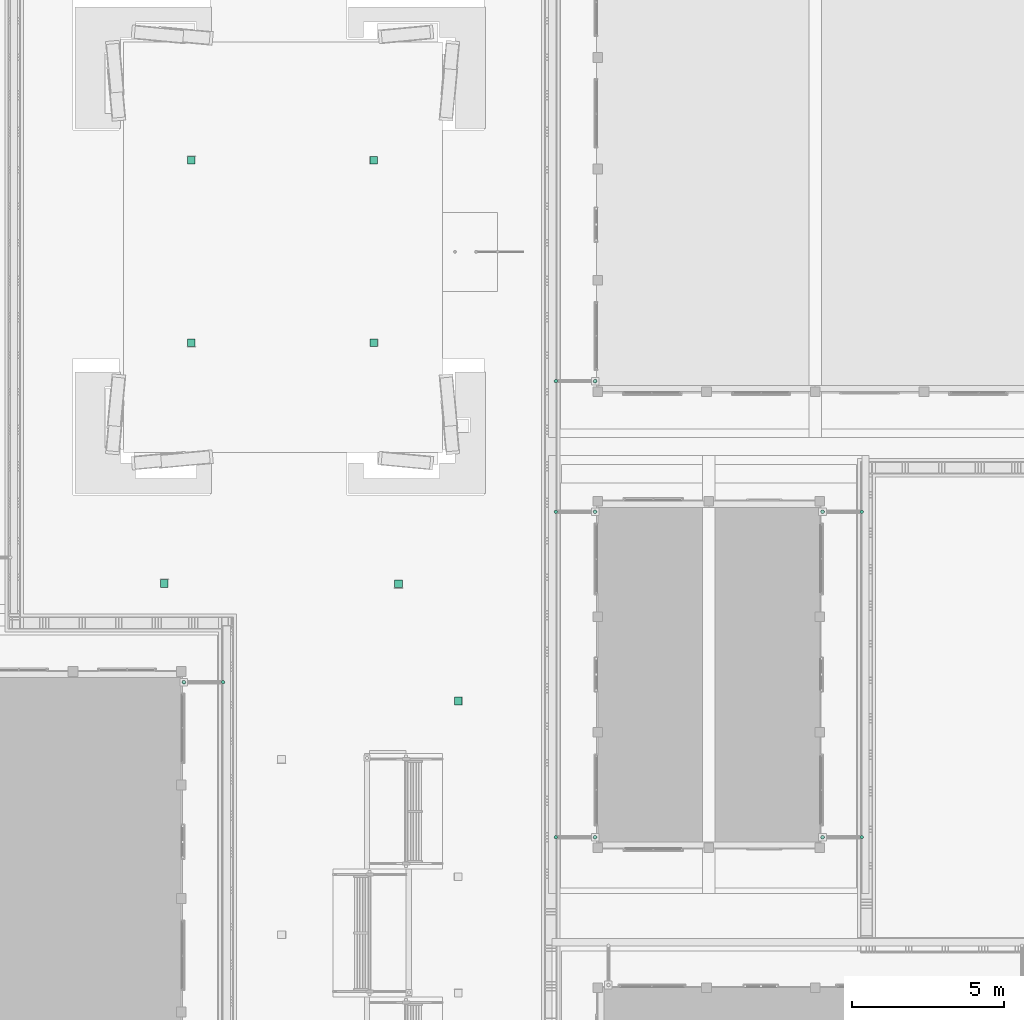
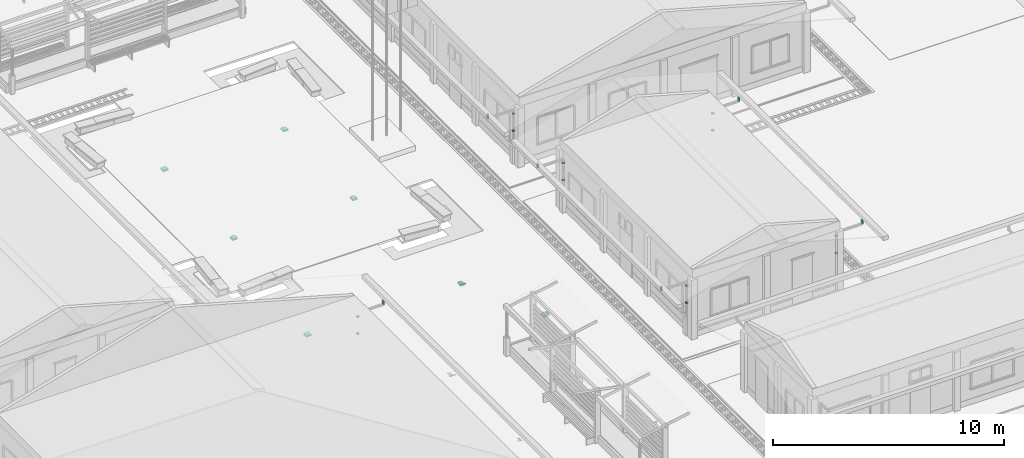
# One storey, part 114 of 151: 18 flow segments, 7 flow terminals.
"""IFC2X3 building model written with IfcOpenShell, lengths in metres."""

from ifc_helpers import new_model, si_unit, origin, origin_with_axes, place, context, subcontext, project, spatial, faceted_brep, element, save


model = new_model("IFC2X3")

# Units and contexts
model_context = context("Model", 3, precision=1e-05, world=origin_with_axes())
body_context = subcontext(model_context, "Body", "Model", "MODEL_VIEW")
ifc_project = project(units=[si_unit("LENGTHUNIT", "METRE"), si_unit("AREAUNIT", "SQUARE_METRE"), si_unit("VOLUMEUNIT", "CUBIC_METRE"), si_unit("PLANEANGLEUNIT", "RADIAN")], contexts=[model_context])

# Site, building, storey
site_placement = place(None, origin_with_axes())
site = spatial("IfcSite", under=ifc_project, at=site_placement, Name="Predio Los Mangos - Morales, San Martín", CompositionType="ELEMENT")
building_placement = place(site_placement, origin())
building = spatial("IfcBuilding", under=site, at=building_placement, Name="Hogar de Refugio Temporal", CompositionType="ELEMENT")
storey_placement = place(building_placement, origin())
storey = spatial("IfcBuildingStorey", under=building, at=storey_placement, Name="NIVEL 1 (NPT +0.00)", CompositionType="ELEMENT", Elevation=0.0)

# Flow segments
flow_segment_1_placement = place(storey_placement, origin())
element("IfcFlowSegment", 1, at=flow_segment_1_placement, inside=storey, Name="montante_boquilla", ObjectType="Montante PVC 4\"", context=body_context, shape_type="Brep", body=[
    faceted_brep([(32.98, 48.405, 3.13), (32.98, 48.405, 2.91), (32.9525, 48.3976, 2.91), (32.9525, 48.3976, 3.13), (32.9324, 48.3775, 2.91), (32.9324, 48.3775, 3.13), (32.925, 48.35, 2.91), (32.925, 48.35, 3.13), (32.9324, 48.3225, 2.91), (32.9324, 48.3225, 3.13), (32.9525, 48.3024, 2.91), (32.9525, 48.3024, 3.13), (32.98, 48.295, 2.91), (32.98, 48.295, 3.13), (33.0075, 48.3024, 2.91), (33.0075, 48.3024, 3.13), (33.0276, 48.3225, 2.91), (33.0276, 48.3225, 3.13), (33.035, 48.35, 2.91), (33.035, 48.35, 3.13), (33.0276, 48.3775, 2.91), (33.0276, 48.3775, 3.13), (33.0075, 48.3976, 2.91), (33.0075, 48.3976, 3.13)], [[[0, 1, 2, 3]], [[3, 2, 4, 5]], [[5, 4, 6, 7]], [[7, 6, 8, 9]], [[9, 8, 10, 11]], [[11, 10, 12, 13]], [[13, 12, 14, 15]], [[15, 14, 16, 17]], [[17, 16, 18, 19]], [[19, 18, 20, 21]], [[2, 1, 22, 20, 18, 16, 14, 12, 10, 8, 6, 4]], [[21, 20, 22, 23]], [[23, 22, 1, 0]], [[0, 3, 5, 7, 9, 11, 13, 15, 17, 19, 21, 23]]]),
])
flow_segment_2_placement = place(storey_placement, origin())
element("IfcFlowSegment", 2, at=flow_segment_2_placement, inside=storey, Name="montante_abrazadera", ObjectType="Montante PVC 4\"", context=body_context, shape_type="Brep", body=[
    faceted_brep([(31.69, 48.288, 1.8), (31.69, 48.288, 1.84), (31.659, 48.2963, 1.84), (31.659, 48.2963, 1.8), (31.6363, 48.319, 1.84), (31.6363, 48.319, 1.8), (31.628, 48.35, 1.84), (31.628, 48.35, 1.8), (31.6363, 48.381, 1.84), (31.6363, 48.381, 1.8), (31.659, 48.4037, 1.84), (31.659, 48.4037, 1.8), (31.69, 48.412, 1.84), (31.69, 48.412, 1.8), (31.721, 48.4037, 1.84), (31.721, 48.4037, 1.8), (31.7437, 48.381, 1.84), (31.7437, 48.381, 1.8), (31.752, 48.35, 1.84), (31.752, 48.35, 1.8), (31.7437, 48.319, 1.84), (31.7437, 48.319, 1.8), (31.721, 48.2963, 1.84), (31.721, 48.2963, 1.8)], [[[0, 1, 2, 3]], [[3, 2, 4, 5]], [[5, 4, 6, 7]], [[7, 6, 8, 9]], [[9, 8, 10, 11]], [[11, 10, 12, 13]], [[13, 12, 14, 15]], [[15, 14, 16, 17]], [[17, 16, 18, 19]], [[19, 18, 20, 21]], [[2, 1, 22, 20, 18, 16, 14, 12, 10, 8, 6, 4]], [[21, 20, 22, 23]], [[23, 22, 1, 0]], [[0, 3, 5, 7, 9, 11, 13, 15, 17, 19, 21, 23]]]),
])
flow_segment_3_placement = place(storey_placement, origin())
element("IfcFlowSegment", 3, at=flow_segment_3_placement, inside=storey, Name="montante_abrazadera", ObjectType="Montante PVC 4\"", context=body_context, shape_type="Brep", body=[
    faceted_brep([(31.69, 48.288, 2.7), (31.69, 48.288, 2.74), (31.659, 48.2963, 2.74), (31.659, 48.2963, 2.7), (31.6363, 48.319, 2.74), (31.6363, 48.319, 2.7), (31.628, 48.35, 2.74), (31.628, 48.35, 2.7), (31.6363, 48.381, 2.74), (31.6363, 48.381, 2.7), (31.659, 48.4037, 2.74), (31.659, 48.4037, 2.7), (31.69, 48.412, 2.74), (31.69, 48.412, 2.7), (31.721, 48.4037, 2.74), (31.721, 48.4037, 2.7), (31.7437, 48.381, 2.74), (31.7437, 48.381, 2.7), (31.752, 48.35, 2.74), (31.752, 48.35, 2.7), (31.7437, 48.319, 2.74), (31.7437, 48.319, 2.7), (31.721, 48.2963, 2.74), (31.721, 48.2963, 2.7)], [[[0, 1, 2, 3]], [[3, 2, 4, 5]], [[5, 4, 6, 7]], [[7, 6, 8, 9]], [[9, 8, 10, 11]], [[11, 10, 12, 13]], [[13, 12, 14, 15]], [[15, 14, 16, 17]], [[17, 16, 18, 19]], [[19, 18, 20, 21]], [[2, 1, 22, 20, 18, 16, 14, 12, 10, 8, 6, 4]], [[21, 20, 22, 23]], [[23, 22, 1, 0]], [[0, 3, 5, 7, 9, 11, 13, 15, 17, 19, 21, 23]]]),
])
flow_segment_4_placement = place(storey_placement, origin())
element("IfcFlowSegment", 4, at=flow_segment_4_placement, inside=storey, Name="montante_boquilla", ObjectType="Montante PVC 4\"", context=body_context, shape_type="Brep", body=[
    faceted_brep([(43.92, 43.305, 3.13), (43.92, 43.305, 2.91), (43.8925, 43.2976, 2.91), (43.8925, 43.2976, 3.13), (43.8724, 43.2775, 2.91), (43.8724, 43.2775, 3.13), (43.865, 43.25, 2.91), (43.865, 43.25, 3.13), (43.8724, 43.2225, 2.91), (43.8724, 43.2225, 3.13), (43.8925, 43.2024, 2.91), (43.8925, 43.2024, 3.13), (43.92, 43.195, 2.91), (43.92, 43.195, 3.13), (43.9475, 43.2024, 2.91), (43.9475, 43.2024, 3.13), (43.9676, 43.2225, 2.91), (43.9676, 43.2225, 3.13), (43.975, 43.25, 2.91), (43.975, 43.25, 3.13), (43.9676, 43.2775, 2.91), (43.9676, 43.2775, 3.13), (43.9475, 43.2976, 2.91), (43.9475, 43.2976, 3.13)], [[[0, 1, 2, 3]], [[3, 2, 4, 5]], [[5, 4, 6, 7]], [[7, 6, 8, 9]], [[9, 8, 10, 11]], [[11, 10, 12, 13]], [[13, 12, 14, 15]], [[15, 14, 16, 17]], [[17, 16, 18, 19]], [[19, 18, 20, 21]], [[2, 1, 22, 20, 18, 16, 14, 12, 10, 8, 6, 4]], [[21, 20, 22, 23]], [[23, 22, 1, 0]], [[0, 3, 5, 7, 9, 11, 13, 15, 17, 19, 21, 23]]]),
])
flow_segment_5_placement = place(storey_placement, origin())
element("IfcFlowSegment", 5, at=flow_segment_5_placement, inside=storey, Name="montante_abrazadera", ObjectType="Montante PVC 4\"", context=body_context, shape_type="Brep", body=[
    faceted_brep([(45.21, 43.188, 1.8), (45.21, 43.188, 1.84), (45.179, 43.1963, 1.84), (45.179, 43.1963, 1.8), (45.1563, 43.219, 1.84), (45.1563, 43.219, 1.8), (45.148, 43.25, 1.84), (45.148, 43.25, 1.8), (45.1563, 43.281, 1.84), (45.1563, 43.281, 1.8), (45.179, 43.3037, 1.84), (45.179, 43.3037, 1.8), (45.21, 43.312, 1.84), (45.21, 43.312, 1.8), (45.241, 43.3037, 1.84), (45.241, 43.3037, 1.8), (45.2637, 43.281, 1.84), (45.2637, 43.281, 1.8), (45.272, 43.25, 1.84), (45.272, 43.25, 1.8), (45.2637, 43.219, 1.84), (45.2637, 43.219, 1.8), (45.241, 43.1963, 1.84), (45.241, 43.1963, 1.8)], [[[0, 1, 2, 3]], [[3, 2, 4, 5]], [[5, 4, 6, 7]], [[7, 6, 8, 9]], [[9, 8, 10, 11]], [[11, 10, 12, 13]], [[13, 12, 14, 15]], [[15, 14, 16, 17]], [[17, 16, 18, 19]], [[19, 18, 20, 21]], [[2, 1, 22, 20, 18, 16, 14, 12, 10, 8, 6, 4]], [[21, 20, 22, 23]], [[23, 22, 1, 0]], [[0, 3, 5, 7, 9, 11, 13, 15, 17, 19, 21, 23]]]),
])
flow_segment_6_placement = place(storey_placement, origin())
element("IfcFlowSegment", 6, at=flow_segment_6_placement, inside=storey, Name="montante_abrazadera", ObjectType="Montante PVC 4\"", context=body_context, shape_type="Brep", body=[
    faceted_brep([(45.21, 43.188, 2.7), (45.21, 43.188, 2.74), (45.179, 43.1963, 2.74), (45.179, 43.1963, 2.7), (45.1563, 43.219, 2.74), (45.1563, 43.219, 2.7), (45.148, 43.25, 2.74), (45.148, 43.25, 2.7), (45.1563, 43.281, 2.74), (45.1563, 43.281, 2.7), (45.179, 43.3037, 2.74), (45.179, 43.3037, 2.7), (45.21, 43.312, 2.74), (45.21, 43.312, 2.7), (45.241, 43.3037, 2.74), (45.241, 43.3037, 2.7), (45.2637, 43.281, 2.74), (45.2637, 43.281, 2.7), (45.272, 43.25, 2.74), (45.272, 43.25, 2.7), (45.2637, 43.219, 2.74), (45.2637, 43.219, 2.7), (45.241, 43.1963, 2.74), (45.241, 43.1963, 2.7)], [[[0, 1, 2, 3]], [[3, 2, 4, 5]], [[5, 4, 6, 7]], [[7, 6, 8, 9]], [[9, 8, 10, 11]], [[11, 10, 12, 13]], [[13, 12, 14, 15]], [[15, 14, 16, 17]], [[17, 16, 18, 19]], [[19, 18, 20, 21]], [[2, 1, 22, 20, 18, 16, 14, 12, 10, 8, 6, 4]], [[21, 20, 22, 23]], [[23, 22, 1, 0]], [[0, 3, 5, 7, 9, 11, 13, 15, 17, 19, 21, 23]]]),
])
flow_segment_7_placement = place(storey_placement, origin())
element("IfcFlowSegment", 7, at=flow_segment_7_placement, inside=storey, Name="montante_boquilla", ObjectType="Montante PVC 4\"", context=body_context, shape_type="Brep", body=[
    faceted_brep([(43.92, 54.005, 3.13), (43.92, 54.005, 2.91), (43.8925, 53.9976, 2.91), (43.8925, 53.9976, 3.13), (43.8724, 53.9775, 2.91), (43.8724, 53.9775, 3.13), (43.865, 53.95, 2.91), (43.865, 53.95, 3.13), (43.8724, 53.9225, 2.91), (43.8724, 53.9225, 3.13), (43.8925, 53.9024, 2.91), (43.8925, 53.9024, 3.13), (43.92, 53.895, 2.91), (43.92, 53.895, 3.13), (43.9475, 53.9024, 2.91), (43.9475, 53.9024, 3.13), (43.9676, 53.9225, 2.91), (43.9676, 53.9225, 3.13), (43.975, 53.95, 2.91), (43.975, 53.95, 3.13), (43.9676, 53.9775, 2.91), (43.9676, 53.9775, 3.13), (43.9475, 53.9976, 2.91), (43.9475, 53.9976, 3.13)], [[[0, 1, 2, 3]], [[3, 2, 4, 5]], [[5, 4, 6, 7]], [[7, 6, 8, 9]], [[9, 8, 10, 11]], [[11, 10, 12, 13]], [[13, 12, 14, 15]], [[15, 14, 16, 17]], [[17, 16, 18, 19]], [[19, 18, 20, 21]], [[2, 1, 22, 20, 18, 16, 14, 12, 10, 8, 6, 4]], [[21, 20, 22, 23]], [[23, 22, 1, 0]], [[0, 3, 5, 7, 9, 11, 13, 15, 17, 19, 21, 23]]]),
])
flow_segment_8_placement = place(storey_placement, origin())
element("IfcFlowSegment", 8, at=flow_segment_8_placement, inside=storey, Name="montante_abrazadera", ObjectType="Montante PVC 4\"", context=body_context, shape_type="Brep", body=[
    faceted_brep([(45.21, 53.888, 1.8), (45.21, 53.888, 1.84), (45.179, 53.8963, 1.84), (45.179, 53.8963, 1.8), (45.1563, 53.919, 1.84), (45.1563, 53.919, 1.8), (45.148, 53.95, 1.84), (45.148, 53.95, 1.8), (45.1563, 53.981, 1.84), (45.1563, 53.981, 1.8), (45.179, 54.0037, 1.84), (45.179, 54.0037, 1.8), (45.21, 54.012, 1.84), (45.21, 54.012, 1.8), (45.241, 54.0037, 1.84), (45.241, 54.0037, 1.8), (45.2637, 53.981, 1.84), (45.2637, 53.981, 1.8), (45.272, 53.95, 1.84), (45.272, 53.95, 1.8), (45.2637, 53.919, 1.84), (45.2637, 53.919, 1.8), (45.241, 53.8963, 1.84), (45.241, 53.8963, 1.8)], [[[0, 1, 2, 3]], [[3, 2, 4, 5]], [[5, 4, 6, 7]], [[7, 6, 8, 9]], [[9, 8, 10, 11]], [[11, 10, 12, 13]], [[13, 12, 14, 15]], [[15, 14, 16, 17]], [[17, 16, 18, 19]], [[19, 18, 20, 21]], [[2, 1, 22, 20, 18, 16, 14, 12, 10, 8, 6, 4]], [[21, 20, 22, 23]], [[23, 22, 1, 0]], [[0, 3, 5, 7, 9, 11, 13, 15, 17, 19, 21, 23]]]),
])
flow_segment_9_placement = place(storey_placement, origin())
element("IfcFlowSegment", 9, at=flow_segment_9_placement, inside=storey, Name="montante_abrazadera", ObjectType="Montante PVC 4\"", context=body_context, shape_type="Brep", body=[
    faceted_brep([(45.21, 53.888, 2.7), (45.21, 53.888, 2.74), (45.179, 53.8963, 2.74), (45.179, 53.8963, 2.7), (45.1563, 53.919, 2.74), (45.1563, 53.919, 2.7), (45.148, 53.95, 2.74), (45.148, 53.95, 2.7), (45.1563, 53.981, 2.74), (45.1563, 53.981, 2.7), (45.179, 54.0037, 2.74), (45.179, 54.0037, 2.7), (45.21, 54.012, 2.74), (45.21, 54.012, 2.7), (45.241, 54.0037, 2.74), (45.241, 54.0037, 2.7), (45.2637, 53.981, 2.74), (45.2637, 53.981, 2.7), (45.272, 53.95, 2.74), (45.272, 53.95, 2.7), (45.2637, 53.919, 2.74), (45.2637, 53.919, 2.7), (45.241, 53.8963, 2.74), (45.241, 53.8963, 2.7)], [[[0, 1, 2, 3]], [[3, 2, 4, 5]], [[5, 4, 6, 7]], [[7, 6, 8, 9]], [[9, 8, 10, 11]], [[11, 10, 12, 13]], [[13, 12, 14, 15]], [[15, 14, 16, 17]], [[17, 16, 18, 19]], [[19, 18, 20, 21]], [[2, 1, 22, 20, 18, 16, 14, 12, 10, 8, 6, 4]], [[21, 20, 22, 23]], [[23, 22, 1, 0]], [[0, 3, 5, 7, 9, 11, 13, 15, 17, 19, 21, 23]]]),
])
flow_segment_10_placement = place(storey_placement, origin())
element("IfcFlowSegment", 10, at=flow_segment_10_placement, inside=storey, Name="montante_boquilla", ObjectType="Montante PVC 4\"", context=body_context, shape_type="Brep", body=[
    faceted_brep([(53.98, 43.305, 3.13), (53.98, 43.305, 2.91), (53.9525, 43.2976, 2.91), (53.9525, 43.2976, 3.13), (53.9324, 43.2775, 2.91), (53.9324, 43.2775, 3.13), (53.925, 43.25, 2.91), (53.925, 43.25, 3.13), (53.9324, 43.2225, 2.91), (53.9324, 43.2225, 3.13), (53.9525, 43.2024, 2.91), (53.9525, 43.2024, 3.13), (53.98, 43.195, 2.91), (53.98, 43.195, 3.13), (54.0075, 43.2024, 2.91), (54.0075, 43.2024, 3.13), (54.0276, 43.2225, 2.91), (54.0276, 43.2225, 3.13), (54.035, 43.25, 2.91), (54.035, 43.25, 3.13), (54.0276, 43.2775, 2.91), (54.0276, 43.2775, 3.13), (54.0075, 43.2976, 2.91), (54.0075, 43.2976, 3.13)], [[[0, 1, 2, 3]], [[3, 2, 4, 5]], [[5, 4, 6, 7]], [[7, 6, 8, 9]], [[9, 8, 10, 11]], [[11, 10, 12, 13]], [[13, 12, 14, 15]], [[15, 14, 16, 17]], [[17, 16, 18, 19]], [[19, 18, 20, 21]], [[2, 1, 22, 20, 18, 16, 14, 12, 10, 8, 6, 4]], [[21, 20, 22, 23]], [[23, 22, 1, 0]], [[0, 3, 5, 7, 9, 11, 13, 15, 17, 19, 21, 23]]]),
])
flow_segment_11_placement = place(storey_placement, origin())
element("IfcFlowSegment", 11, at=flow_segment_11_placement, inside=storey, Name="montante_abrazadera", ObjectType="Montante PVC 4\"", context=body_context, shape_type="Brep", body=[
    faceted_brep([(52.69, 43.188, 1.8), (52.69, 43.188, 1.84), (52.659, 43.1963, 1.84), (52.659, 43.1963, 1.8), (52.6363, 43.219, 1.84), (52.6363, 43.219, 1.8), (52.628, 43.25, 1.84), (52.628, 43.25, 1.8), (52.6363, 43.281, 1.84), (52.6363, 43.281, 1.8), (52.659, 43.3037, 1.84), (52.659, 43.3037, 1.8), (52.69, 43.312, 1.84), (52.69, 43.312, 1.8), (52.721, 43.3037, 1.84), (52.721, 43.3037, 1.8), (52.7437, 43.281, 1.84), (52.7437, 43.281, 1.8), (52.752, 43.25, 1.84), (52.752, 43.25, 1.8), (52.7437, 43.219, 1.84), (52.7437, 43.219, 1.8), (52.721, 43.1963, 1.84), (52.721, 43.1963, 1.8)], [[[0, 1, 2, 3]], [[3, 2, 4, 5]], [[5, 4, 6, 7]], [[7, 6, 8, 9]], [[9, 8, 10, 11]], [[11, 10, 12, 13]], [[13, 12, 14, 15]], [[15, 14, 16, 17]], [[17, 16, 18, 19]], [[19, 18, 20, 21]], [[2, 1, 22, 20, 18, 16, 14, 12, 10, 8, 6, 4]], [[21, 20, 22, 23]], [[23, 22, 1, 0]], [[0, 3, 5, 7, 9, 11, 13, 15, 17, 19, 21, 23]]]),
])
flow_segment_12_placement = place(storey_placement, origin())
element("IfcFlowSegment", 12, at=flow_segment_12_placement, inside=storey, Name="montante_abrazadera", ObjectType="Montante PVC 4\"", context=body_context, shape_type="Brep", body=[
    faceted_brep([(52.69, 43.188, 2.7), (52.69, 43.188, 2.74), (52.659, 43.1963, 2.74), (52.659, 43.1963, 2.7), (52.6363, 43.219, 2.74), (52.6363, 43.219, 2.7), (52.628, 43.25, 2.74), (52.628, 43.25, 2.7), (52.6363, 43.281, 2.74), (52.6363, 43.281, 2.7), (52.659, 43.3037, 2.74), (52.659, 43.3037, 2.7), (52.69, 43.312, 2.74), (52.69, 43.312, 2.7), (52.721, 43.3037, 2.74), (52.721, 43.3037, 2.7), (52.7437, 43.281, 2.74), (52.7437, 43.281, 2.7), (52.752, 43.25, 2.74), (52.752, 43.25, 2.7), (52.7437, 43.219, 2.74), (52.7437, 43.219, 2.7), (52.721, 43.1963, 2.74), (52.721, 43.1963, 2.7)], [[[0, 1, 2, 3]], [[3, 2, 4, 5]], [[5, 4, 6, 7]], [[7, 6, 8, 9]], [[9, 8, 10, 11]], [[11, 10, 12, 13]], [[13, 12, 14, 15]], [[15, 14, 16, 17]], [[17, 16, 18, 19]], [[19, 18, 20, 21]], [[2, 1, 22, 20, 18, 16, 14, 12, 10, 8, 6, 4]], [[21, 20, 22, 23]], [[23, 22, 1, 0]], [[0, 3, 5, 7, 9, 11, 13, 15, 17, 19, 21, 23]]]),
])
flow_segment_13_placement = place(storey_placement, origin())
element("IfcFlowSegment", 13, at=flow_segment_13_placement, inside=storey, Name="montante_boquilla", ObjectType="Montante PVC 4\"", context=body_context, shape_type="Brep", body=[
    faceted_brep([(53.98, 54.005, 3.13), (53.98, 54.005, 2.91), (53.9525, 53.9976, 2.91), (53.9525, 53.9976, 3.13), (53.9324, 53.9775, 2.91), (53.9324, 53.9775, 3.13), (53.925, 53.95, 2.91), (53.925, 53.95, 3.13), (53.9324, 53.9225, 2.91), (53.9324, 53.9225, 3.13), (53.9525, 53.9024, 2.91), (53.9525, 53.9024, 3.13), (53.98, 53.895, 2.91), (53.98, 53.895, 3.13), (54.0075, 53.9024, 2.91), (54.0075, 53.9024, 3.13), (54.0276, 53.9225, 2.91), (54.0276, 53.9225, 3.13), (54.035, 53.95, 2.91), (54.035, 53.95, 3.13), (54.0276, 53.9775, 2.91), (54.0276, 53.9775, 3.13), (54.0075, 53.9976, 2.91), (54.0075, 53.9976, 3.13)], [[[0, 1, 2, 3]], [[3, 2, 4, 5]], [[5, 4, 6, 7]], [[7, 6, 8, 9]], [[9, 8, 10, 11]], [[11, 10, 12, 13]], [[13, 12, 14, 15]], [[15, 14, 16, 17]], [[17, 16, 18, 19]], [[19, 18, 20, 21]], [[2, 1, 22, 20, 18, 16, 14, 12, 10, 8, 6, 4]], [[21, 20, 22, 23]], [[23, 22, 1, 0]], [[0, 3, 5, 7, 9, 11, 13, 15, 17, 19, 21, 23]]]),
])
flow_segment_14_placement = place(storey_placement, origin())
element("IfcFlowSegment", 14, at=flow_segment_14_placement, inside=storey, Name="montante_abrazadera", ObjectType="Montante PVC 4\"", context=body_context, shape_type="Brep", body=[
    faceted_brep([(52.69, 53.888, 1.8), (52.69, 53.888, 1.84), (52.659, 53.8963, 1.84), (52.659, 53.8963, 1.8), (52.6363, 53.919, 1.84), (52.6363, 53.919, 1.8), (52.628, 53.95, 1.84), (52.628, 53.95, 1.8), (52.6363, 53.981, 1.84), (52.6363, 53.981, 1.8), (52.659, 54.0037, 1.84), (52.659, 54.0037, 1.8), (52.69, 54.012, 1.84), (52.69, 54.012, 1.8), (52.721, 54.0037, 1.84), (52.721, 54.0037, 1.8), (52.7437, 53.981, 1.84), (52.7437, 53.981, 1.8), (52.752, 53.95, 1.84), (52.752, 53.95, 1.8), (52.7437, 53.919, 1.84), (52.7437, 53.919, 1.8), (52.721, 53.8963, 1.84), (52.721, 53.8963, 1.8)], [[[0, 1, 2, 3]], [[3, 2, 4, 5]], [[5, 4, 6, 7]], [[7, 6, 8, 9]], [[9, 8, 10, 11]], [[11, 10, 12, 13]], [[13, 12, 14, 15]], [[15, 14, 16, 17]], [[17, 16, 18, 19]], [[19, 18, 20, 21]], [[2, 1, 22, 20, 18, 16, 14, 12, 10, 8, 6, 4]], [[21, 20, 22, 23]], [[23, 22, 1, 0]], [[0, 3, 5, 7, 9, 11, 13, 15, 17, 19, 21, 23]]]),
])
flow_segment_15_placement = place(storey_placement, origin())
element("IfcFlowSegment", 15, at=flow_segment_15_placement, inside=storey, Name="montante_abrazadera", ObjectType="Montante PVC 4\"", context=body_context, shape_type="Brep", body=[
    faceted_brep([(52.69, 53.888, 2.7), (52.69, 53.888, 2.74), (52.659, 53.8963, 2.74), (52.659, 53.8963, 2.7), (52.6363, 53.919, 2.74), (52.6363, 53.919, 2.7), (52.628, 53.95, 2.74), (52.628, 53.95, 2.7), (52.6363, 53.981, 2.74), (52.6363, 53.981, 2.7), (52.659, 54.0037, 2.74), (52.659, 54.0037, 2.7), (52.69, 54.012, 2.74), (52.69, 54.012, 2.7), (52.721, 54.0037, 2.74), (52.721, 54.0037, 2.7), (52.7437, 53.981, 2.74), (52.7437, 53.981, 2.7), (52.752, 53.95, 2.74), (52.752, 53.95, 2.7), (52.7437, 53.919, 2.74), (52.7437, 53.919, 2.7), (52.721, 53.8963, 2.74), (52.721, 53.8963, 2.7)], [[[0, 1, 2, 3]], [[3, 2, 4, 5]], [[5, 4, 6, 7]], [[7, 6, 8, 9]], [[9, 8, 10, 11]], [[11, 10, 12, 13]], [[13, 12, 14, 15]], [[15, 14, 16, 17]], [[17, 16, 18, 19]], [[19, 18, 20, 21]], [[2, 1, 22, 20, 18, 16, 14, 12, 10, 8, 6, 4]], [[21, 20, 22, 23]], [[23, 22, 1, 0]], [[0, 3, 5, 7, 9, 11, 13, 15, 17, 19, 21, 23]]]),
])
flow_segment_16_placement = place(storey_placement, origin())
element("IfcFlowSegment", 16, at=flow_segment_16_placement, inside=storey, Name="montante_boquilla", ObjectType="Montante PVC 4\"", context=body_context, shape_type="Brep", body=[
    faceted_brep([(43.92, 58.305, 3.13), (43.92, 58.305, 2.91), (43.8925, 58.2976, 2.91), (43.8925, 58.2976, 3.13), (43.8724, 58.2775, 2.91), (43.8724, 58.2775, 3.13), (43.865, 58.25, 2.91), (43.865, 58.25, 3.13), (43.8724, 58.2225, 2.91), (43.8724, 58.2225, 3.13), (43.8925, 58.2024, 2.91), (43.8925, 58.2024, 3.13), (43.92, 58.195, 2.91), (43.92, 58.195, 3.13), (43.9475, 58.2024, 2.91), (43.9475, 58.2024, 3.13), (43.9676, 58.2225, 2.91), (43.9676, 58.2225, 3.13), (43.975, 58.25, 2.91), (43.975, 58.25, 3.13), (43.9676, 58.2775, 2.91), (43.9676, 58.2775, 3.13), (43.9475, 58.2976, 2.91), (43.9475, 58.2976, 3.13)], [[[0, 1, 2, 3]], [[3, 2, 4, 5]], [[5, 4, 6, 7]], [[7, 6, 8, 9]], [[9, 8, 10, 11]], [[11, 10, 12, 13]], [[13, 12, 14, 15]], [[15, 14, 16, 17]], [[17, 16, 18, 19]], [[19, 18, 20, 21]], [[2, 1, 22, 20, 18, 16, 14, 12, 10, 8, 6, 4]], [[21, 20, 22, 23]], [[23, 22, 1, 0]], [[0, 3, 5, 7, 9, 11, 13, 15, 17, 19, 21, 23]]]),
])
flow_segment_17_placement = place(storey_placement, origin())
element("IfcFlowSegment", 17, at=flow_segment_17_placement, inside=storey, Name="montante_abrazadera", ObjectType="Montante PVC 4\"", context=body_context, shape_type="Brep", body=[
    faceted_brep([(45.21, 58.188, 1.8), (45.21, 58.188, 1.84), (45.179, 58.1963, 1.84), (45.179, 58.1963, 1.8), (45.1563, 58.219, 1.84), (45.1563, 58.219, 1.8), (45.148, 58.25, 1.84), (45.148, 58.25, 1.8), (45.1563, 58.281, 1.84), (45.1563, 58.281, 1.8), (45.179, 58.3037, 1.84), (45.179, 58.3037, 1.8), (45.21, 58.312, 1.84), (45.21, 58.312, 1.8), (45.241, 58.3037, 1.84), (45.241, 58.3037, 1.8), (45.2637, 58.281, 1.84), (45.2637, 58.281, 1.8), (45.272, 58.25, 1.84), (45.272, 58.25, 1.8), (45.2637, 58.219, 1.84), (45.2637, 58.219, 1.8), (45.241, 58.1963, 1.84), (45.241, 58.1963, 1.8)], [[[0, 1, 2, 3]], [[3, 2, 4, 5]], [[5, 4, 6, 7]], [[7, 6, 8, 9]], [[9, 8, 10, 11]], [[11, 10, 12, 13]], [[13, 12, 14, 15]], [[15, 14, 16, 17]], [[17, 16, 18, 19]], [[19, 18, 20, 21]], [[2, 1, 22, 20, 18, 16, 14, 12, 10, 8, 6, 4]], [[21, 20, 22, 23]], [[23, 22, 1, 0]], [[0, 3, 5, 7, 9, 11, 13, 15, 17, 19, 21, 23]]]),
])
flow_segment_18_placement = place(storey_placement, origin())
element("IfcFlowSegment", 18, at=flow_segment_18_placement, inside=storey, Name="montante_abrazadera", ObjectType="Montante PVC 4\"", context=body_context, shape_type="Brep", body=[
    faceted_brep([(45.21, 58.188, 2.7), (45.21, 58.188, 2.74), (45.179, 58.1963, 2.74), (45.179, 58.1963, 2.7), (45.1563, 58.219, 2.74), (45.1563, 58.219, 2.7), (45.148, 58.25, 2.74), (45.148, 58.25, 2.7), (45.1563, 58.281, 2.74), (45.1563, 58.281, 2.7), (45.179, 58.3037, 2.74), (45.179, 58.3037, 2.7), (45.21, 58.312, 2.74), (45.21, 58.312, 2.7), (45.241, 58.3037, 2.74), (45.241, 58.3037, 2.7), (45.2637, 58.281, 2.74), (45.2637, 58.281, 2.7), (45.272, 58.25, 2.74), (45.272, 58.25, 2.7), (45.2637, 58.219, 2.74), (45.2637, 58.219, 2.7), (45.241, 58.1963, 2.74), (45.241, 58.1963, 2.7)], [[[0, 1, 2, 3]], [[3, 2, 4, 5]], [[5, 4, 6, 7]], [[7, 6, 8, 9]], [[9, 8, 10, 11]], [[11, 10, 12, 13]], [[13, 12, 14, 15]], [[15, 14, 16, 17]], [[17, 16, 18, 19]], [[19, 18, 20, 21]], [[2, 1, 22, 20, 18, 16, 14, 12, 10, 8, 6, 4]], [[21, 20, 22, 23]], [[23, 22, 1, 0]], [[0, 3, 5, 7, 9, 11, 13, 15, 17, 19, 21, 23]]]),
])

# Flow terminals
flow_terminal_1_placement = place(storey_placement, origin())
element("IfcFlowTerminal", 19, at=flow_terminal_1_placement, inside=storey, Name="sumidero_fondo", ObjectType="Sumidero con rejilla", context=body_context, shape_type="Brep", body=[
    faceted_brep([(31.81, 65.384, -0.02), (31.81, 65.634, -0.02), (32.06, 65.634, -0.02), (32.06, 65.384, -0.02), (31.81, 65.384, 0.064), (32.06, 65.384, 0.064), (32.06, 65.634, 0.064), (31.81, 65.634, 0.064)], [[[0, 1, 2, 3]], [[4, 5, 6, 7]], [[0, 3, 5, 4]], [[3, 2, 6, 5]], [[2, 1, 7, 6]], [[1, 0, 4, 7]]]),
])
flow_terminal_2_placement = place(storey_placement, origin())
element("IfcFlowTerminal", 20, at=flow_terminal_2_placement, inside=storey, Name="sumidero_fondo", ObjectType="Sumidero con rejilla", context=body_context, shape_type="Brep", body=[
    faceted_brep([(31.81, 59.384, -0.02), (31.81, 59.634, -0.02), (32.06, 59.634, -0.02), (32.06, 59.384, -0.02), (31.81, 59.384, 0.064), (32.06, 59.384, 0.064), (32.06, 59.634, 0.064), (31.81, 59.634, 0.064)], [[[0, 1, 2, 3]], [[4, 5, 6, 7]], [[0, 3, 5, 4]], [[3, 2, 6, 5]], [[2, 1, 7, 6]], [[1, 0, 4, 7]]]),
])
flow_terminal_3_placement = place(storey_placement, origin())
element("IfcFlowTerminal", 21, at=flow_terminal_3_placement, inside=storey, Name="sumidero_fondo", ObjectType="Sumidero con rejilla", context=body_context, shape_type="Brep", body=[
    faceted_brep([(37.81, 59.384, -0.02), (37.81, 59.634, -0.02), (38.06, 59.634, -0.02), (38.06, 59.384, -0.02), (37.81, 59.384, 0.064), (38.06, 59.384, 0.064), (38.06, 59.634, 0.064), (37.81, 59.634, 0.064)], [[[0, 1, 2, 3]], [[4, 5, 6, 7]], [[0, 3, 5, 4]], [[3, 2, 6, 5]], [[2, 1, 7, 6]], [[1, 0, 4, 7]]]),
])
flow_terminal_4_placement = place(storey_placement, origin())
element("IfcFlowTerminal", 22, at=flow_terminal_4_placement, inside=storey, Name="sumidero_fondo", ObjectType="Sumidero con rejilla", context=body_context, shape_type="Brep", body=[
    faceted_brep([(37.81, 65.384, -0.02), (37.81, 65.634, -0.02), (38.06, 65.634, -0.02), (38.06, 65.384, -0.02), (37.81, 65.384, 0.064), (38.06, 65.384, 0.064), (38.06, 65.634, 0.064), (37.81, 65.634, 0.064)], [[[0, 1, 2, 3]], [[4, 5, 6, 7]], [[0, 3, 5, 4]], [[3, 2, 6, 5]], [[2, 1, 7, 6]], [[1, 0, 4, 7]]]),
])
flow_terminal_5_placement = place(storey_placement, origin())
element("IfcFlowTerminal", 23, at=flow_terminal_5_placement, inside=storey, Name="sumidero_fondo", ObjectType="Sumidero con rejilla", context=body_context, shape_type="Brep", body=[
    faceted_brep([(30.922, 51.469, -0.02), (30.922, 51.719, -0.02), (31.172, 51.719, -0.02), (31.172, 51.469, -0.02), (30.922, 51.469, 0.064), (31.172, 51.469, 0.064), (31.172, 51.719, 0.064), (30.922, 51.719, 0.064)], [[[0, 1, 2, 3]], [[4, 5, 6, 7]], [[0, 3, 5, 4]], [[3, 2, 6, 5]], [[2, 1, 7, 6]], [[1, 0, 4, 7]]]),
])
flow_terminal_6_placement = place(storey_placement, origin())
element("IfcFlowTerminal", 24, at=flow_terminal_6_placement, inside=storey, Name="sumidero_fondo", ObjectType="Sumidero con rejilla", context=body_context, shape_type="Brep", body=[
    faceted_brep([(38.622, 51.454, -0.02), (38.622, 51.704, -0.02), (38.872, 51.704, -0.02), (38.872, 51.454, -0.02), (38.622, 51.454, 0.064), (38.872, 51.454, 0.064), (38.872, 51.704, 0.064), (38.622, 51.704, 0.064)], [[[0, 1, 2, 3]], [[4, 5, 6, 7]], [[0, 3, 5, 4]], [[3, 2, 6, 5]], [[2, 1, 7, 6]], [[1, 0, 4, 7]]]),
])
flow_terminal_7_placement = place(storey_placement, origin())
element("IfcFlowTerminal", 25, at=flow_terminal_7_placement, inside=storey, Name="sumidero_fondo", ObjectType="Sumidero con rejilla", context=body_context, shape_type="Brep", body=[
    faceted_brep([(40.585, 47.604, -0.02), (40.585, 47.854, -0.02), (40.835, 47.854, -0.02), (40.835, 47.604, -0.02), (40.585, 47.604, 0.064), (40.835, 47.604, 0.064), (40.835, 47.854, 0.064), (40.585, 47.854, 0.064)], [[[0, 1, 2, 3]], [[4, 5, 6, 7]], [[0, 3, 5, 4]], [[3, 2, 6, 5]], [[2, 1, 7, 6]], [[1, 0, 4, 7]]]),
])

save(model, "model.ifc")
